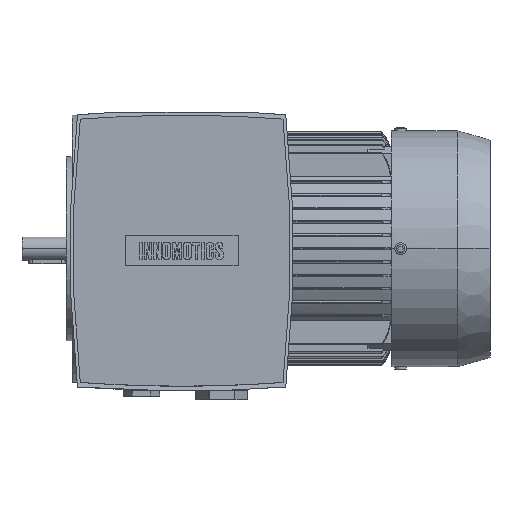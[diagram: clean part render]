
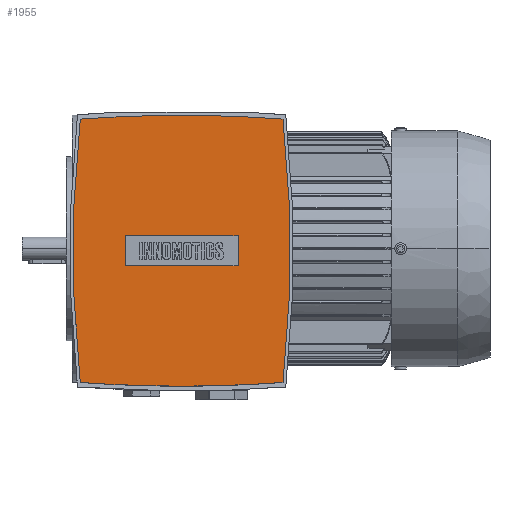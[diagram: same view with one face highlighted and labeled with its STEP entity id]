
A CAD part, top view. The second image highlights one B-rep face of the part: STEP entity #1955.
In plain terms, the highlighted planar face has unit normal (0, 0, 1).
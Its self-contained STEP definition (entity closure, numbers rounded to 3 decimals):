
#1955=ADVANCED_FACE('',(#4088,#4089),#4090,.T.);
#4088=FACE_BOUND('',#6379,.T.);
#4089=FACE_OUTER_BOUND('',#6380,.T.);
#4090=PLANE('',#6381);
#6379=EDGE_LOOP('',(#12412,#12413,#12414,#12415));
#6380=EDGE_LOOP('',(#12416,#12417,#12418,#12419,#12420,#12421));
#6381=AXIS2_PLACEMENT_3D('',#12422,#12423,#12424);
#12412=ORIENTED_EDGE('',*,*,#15950,.T.);
#12413=ORIENTED_EDGE('',*,*,#15954,.T.);
#12414=ORIENTED_EDGE('',*,*,#15957,.T.);
#12415=ORIENTED_EDGE('',*,*,#15959,.T.);
#12416=ORIENTED_EDGE('',*,*,#16027,.T.);
#12417=ORIENTED_EDGE('',*,*,#16018,.T.);
#12418=ORIENTED_EDGE('',*,*,#13885,.T.);
#12419=ORIENTED_EDGE('',*,*,#16014,.T.);
#12420=ORIENTED_EDGE('',*,*,#13870,.T.);
#12421=ORIENTED_EDGE('',*,*,#16025,.T.);
#12422=CARTESIAN_POINT('',(42.5,-1.5,173.0));
#12423=DIRECTION('',(0.0,0.0,1.0));
#12424=DIRECTION('',(0.0,-1.0,0.0));
#13870=EDGE_CURVE('',#16692,#16689,#16693,.T.);
#13885=EDGE_CURVE('',#16714,#16718,#16720,.T.);
#15950=EDGE_CURVE('',#19806,#19804,#19807,.T.);
#15954=EDGE_CURVE('',#19804,#19810,#19812,.T.);
#15957=EDGE_CURVE('',#19810,#19814,#19816,.T.);
#15959=EDGE_CURVE('',#19814,#19806,#19818,.T.);
#16014=EDGE_CURVE('',#16718,#16692,#19895,.T.);
#16018=EDGE_CURVE('',#19899,#16714,#19900,.T.);
#16025=EDGE_CURVE('',#16689,#19907,#19909,.T.);
#16027=EDGE_CURVE('',#19907,#19899,#19911,.T.);
#16689=VERTEX_POINT('',#20998);
#16692=VERTEX_POINT('',#21002);
#16693=CIRCLE('',#21003,828.12);
#16714=VERTEX_POINT('',#21050);
#16718=VERTEX_POINT('',#21055);
#16720=CIRCLE('',#21058,828.12);
#19804=VERTEX_POINT('',#30259);
#19806=VERTEX_POINT('',#30262);
#19807=LINE('',#30263,#30264);
#19810=VERTEX_POINT('',#30268);
#19812=LINE('',#30271,#30272);
#19814=VERTEX_POINT('',#30274);
#19816=LINE('',#30277,#30278);
#19818=LINE('',#30280,#30281);
#19895=CIRCLE('',#30396,717.2);
#19899=VERTEX_POINT('',#30400);
#19900=CIRCLE('',#30401,828.12);
#19907=VERTEX_POINT('',#30410);
#19909=CIRCLE('',#30413,828.12);
#19911=CIRCLE('',#30415,717.2);
#20998=CARTESIAN_POINT('',(42.5,79.5,173.0));
#21002=CARTESIAN_POINT('',(103.161,77.275,173.0));
#21003=AXIS2_PLACEMENT_3D('',#31472,#31473,#31474);
#21050=CARTESIAN_POINT('',(42.5,-82.5,173.0));
#21055=CARTESIAN_POINT('',(103.161,-80.275,173.0));
#21058=AXIS2_PLACEMENT_3D('',#31496,#31497,#31498);
#30259=CARTESIAN_POINT('',(8.75,-10.55,173.0));
#30262=CARTESIAN_POINT('',(76.25,-10.55,173.0));
#30263=CARTESIAN_POINT('',(42.5,-10.55,173.0));
#30264=VECTOR('',#33313,1.0);
#30268=CARTESIAN_POINT('',(8.75,7.55,173.0));
#30271=CARTESIAN_POINT('',(8.75,-1.5,173.0));
#30272=VECTOR('',#33316,1.0);
#30274=CARTESIAN_POINT('',(76.25,7.55,173.0));
#30277=CARTESIAN_POINT('',(42.5,7.55,173.0));
#30278=VECTOR('',#33318,1.0);
#30280=CARTESIAN_POINT('',(76.25,-1.5,173.0));
#30281=VECTOR('',#33319,1.0);
#30396=AXIS2_PLACEMENT_3D('',#33400,#33401,#33402);
#30400=CARTESIAN_POINT('',(-18.161,-80.275,173.0));
#30401=AXIS2_PLACEMENT_3D('',#33406,#33407,#33408);
#30410=CARTESIAN_POINT('',(-18.161,77.275,173.0));
#30413=AXIS2_PLACEMENT_3D('',#33415,#33416,#33417);
#30415=AXIS2_PLACEMENT_3D('',#33418,#33419,#33420);
#31472=CARTESIAN_POINT('',(42.5,-748.62,173.0));
#31473=DIRECTION('',(0.0,-0.0,1.0));
#31474=DIRECTION('',(0.0,1.0,0.0));
#31496=CARTESIAN_POINT('',(42.5,745.62,173.0));
#31497=DIRECTION('',(0.0,-0.0,1.0));
#31498=DIRECTION('',(0.0,1.0,0.0));
#33313=DIRECTION('',(-1.0,0.0,0.0));
#33316=DIRECTION('',(0.0,1.0,0.0));
#33318=DIRECTION('',(1.0,0.0,-0.0));
#33319=DIRECTION('',(0.0,-1.0,0.0));
#33400=CARTESIAN_POINT('',(-609.7,-1.5,173.0));
#33401=DIRECTION('',(0.0,-0.0,1.0));
#33402=DIRECTION('',(0.0,1.0,0.0));
#33406=CARTESIAN_POINT('',(42.5,745.62,173.0));
#33407=DIRECTION('',(0.0,-0.0,1.0));
#33408=DIRECTION('',(0.0,1.0,0.0));
#33415=CARTESIAN_POINT('',(42.5,-748.62,173.0));
#33416=DIRECTION('',(0.0,-0.0,1.0));
#33417=DIRECTION('',(0.0,1.0,0.0));
#33418=CARTESIAN_POINT('',(694.7,-1.5,173.0));
#33419=DIRECTION('',(0.0,-0.0,1.0));
#33420=DIRECTION('',(0.0,1.0,0.0));
